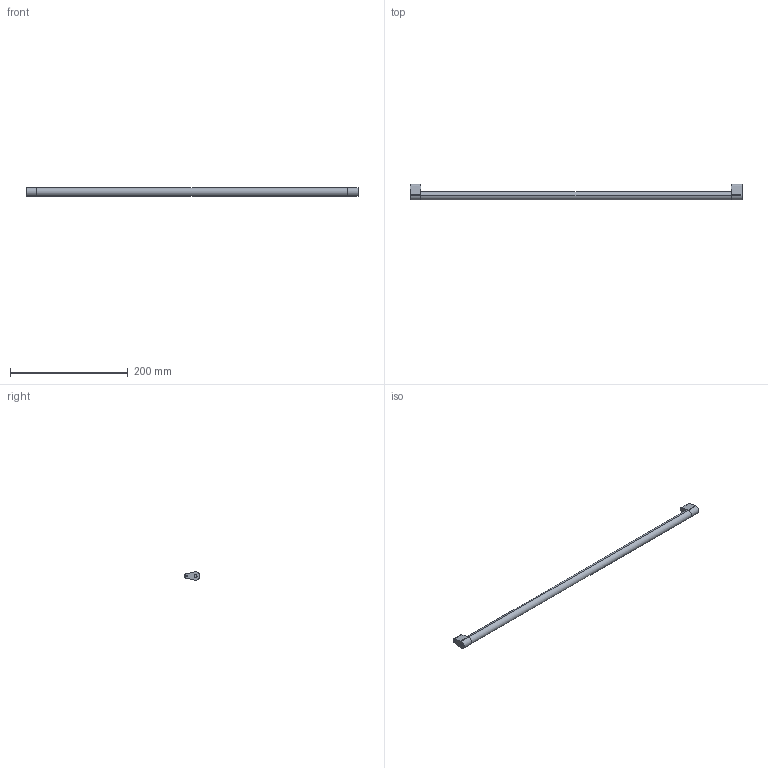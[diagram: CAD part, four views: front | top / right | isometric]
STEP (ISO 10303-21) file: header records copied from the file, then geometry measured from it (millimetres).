
FILE_DESCRIPTION (( 'STEP AP214' ), '1' );
FILE_NAME ('_Synchronisationseinheit Nova Pro KAB650_S16.step', '2010-07-08T13:58:30', ( 'grass' ), ( '' ), 'SwSTEP 2.0', 'SolidWorks 2010', '' );
FILE_SCHEMA (( 'AUTOMOTIVE_DESIGN' ));
Length unit declared in the file: millimetre
Products named in the file (1): _Synchronisationseinheit Nova Pro KAB650_S16
Bounding box: 565 x 26.5 x 14 mm (x, y, z)
Volume: 90661.8 mm3; surface area: 27697 mm2
Topology: 3 solids, 3 shells, 36 faces, 78 edges, 52 vertices
Faces by surface type: cylinder 18, plane 18
Entity records: 1050 total; most frequent: DIRECTION 188, CARTESIAN_POINT 167, ORIENTED_EDGE 156, EDGE_CURVE 78, AXIS2_PLACEMENT_3D 73, VERTEX_POINT 52, VECTOR 42, LINE 42
